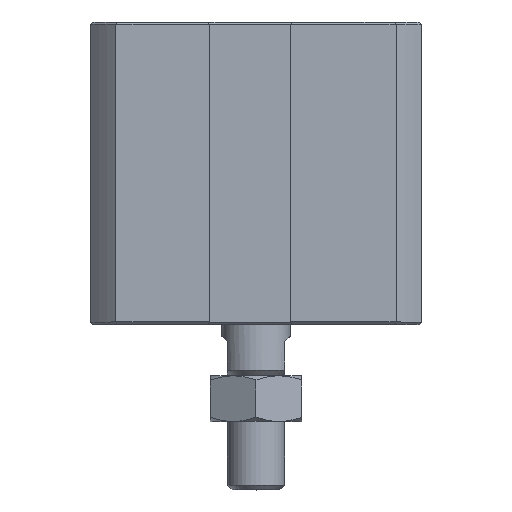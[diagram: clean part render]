
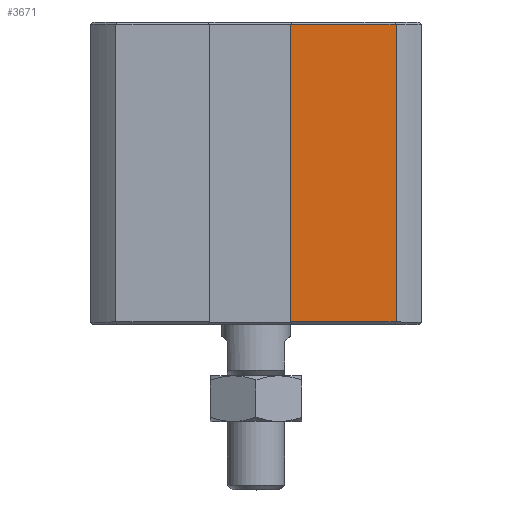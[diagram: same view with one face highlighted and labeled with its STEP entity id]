
A CAD part, top view. The second image highlights one B-rep face of the part: STEP entity #3671.
In plain terms, the highlighted planar face has unit normal (0, 0, 1).
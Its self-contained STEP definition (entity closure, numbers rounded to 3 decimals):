
#240=LINE('',#5096,#432);
#243=LINE('',#5102,#435);
#244=LINE('',#5105,#436);
#245=LINE('',#5106,#437);
#432=VECTOR('',#4316,1000.);
#435=VECTOR('',#4321,1000.);
#436=VECTOR('',#4322,1000.);
#437=VECTOR('',#4323,1000.);
#714=ORIENTED_EDGE('',*,*,#1371,.F.);
#715=ORIENTED_EDGE('',*,*,#1372,.T.);
#716=ORIENTED_EDGE('',*,*,#1368,.T.);
#717=ORIENTED_EDGE('',*,*,#1373,.T.);
#1368=EDGE_CURVE('',#1703,#1704,#240,.T.);
#1371=EDGE_CURVE('',#1705,#1706,#243,.T.);
#1372=EDGE_CURVE('',#1705,#1703,#244,.T.);
#1373=EDGE_CURVE('',#1704,#1706,#245,.T.);
#1703=VERTEX_POINT('',#5097);
#1704=VERTEX_POINT('',#5098);
#1705=VERTEX_POINT('',#5103);
#1706=VERTEX_POINT('',#5104);
#1936=EDGE_LOOP('',(#714,#715,#716,#717));
#2160=FACE_BOUND('',#1936,.T.);
#2344=PLANE('',#3900);
#3671=ADVANCED_FACE('',(#2160),#2344,.T.);
#3900=AXIS2_PLACEMENT_3D('',#5101,#4319,#4320);
#4316=DIRECTION('',(0.,-1.,0.));
#4319=DIRECTION('',(0.,0.,1.));
#4320=DIRECTION('',(1.,0.,0.));
#4321=DIRECTION('',(0.,-1.,0.));
#4322=DIRECTION('',(-1.,0.,0.));
#4323=DIRECTION('',(1.,0.,0.));
#5096=CARTESIAN_POINT('',(3.,26.5,14.5));
#5097=CARTESIAN_POINT('',(3.,26.3,14.5));
#5098=CARTESIAN_POINT('',(3.,0.2,14.5));
#5101=CARTESIAN_POINT('',(12.278,26.5,14.5));
#5102=CARTESIAN_POINT('',(12.278,26.5,14.5));
#5103=CARTESIAN_POINT('',(12.278,26.3,14.5));
#5104=CARTESIAN_POINT('',(12.278,0.2,14.5));
#5105=CARTESIAN_POINT('',(3.,26.3,14.5));
#5106=CARTESIAN_POINT('',(12.278,0.2,14.5));
